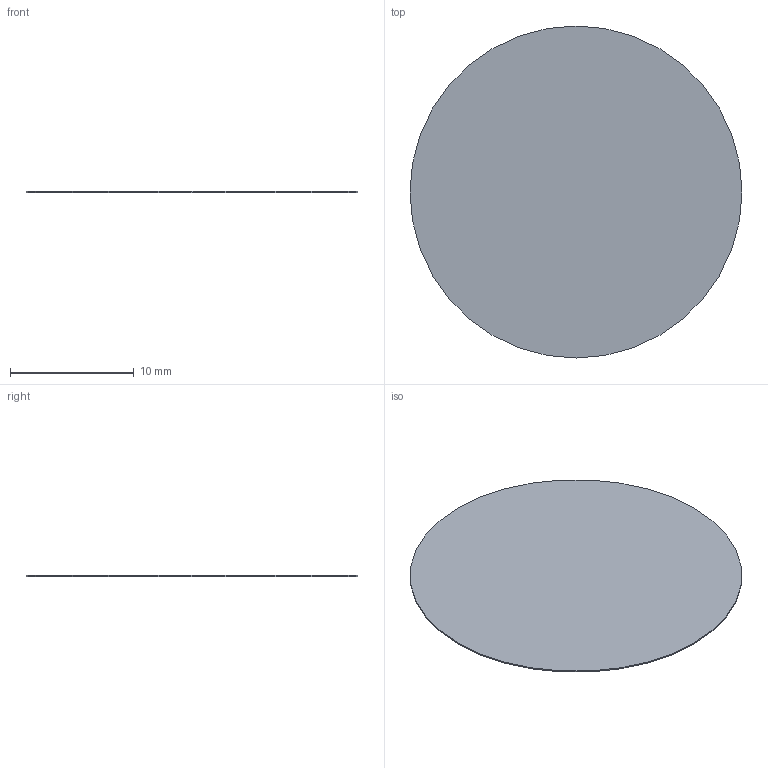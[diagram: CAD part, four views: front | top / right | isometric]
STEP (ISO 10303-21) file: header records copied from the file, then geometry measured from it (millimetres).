
FILE_DESCRIPTION(/* description */ (''),/* implementation_level */ '2;1');
FILE_NAME(/* name */ 'C28_R1_11_Round_Play_Bond_Film.step',/* time_stamp */ '2026-09-10T17:48:31-07:00',/* author */ (''),/* organization */ (''),/* preprocessor_version */ 'ST-DEVELOPER v20.1',/* originating_system */ 'Autodesk Translation Framework v15.8.0.0',/* authorisation */ '');
FILE_SCHEMA (('AUTOMOTIVE_DESIGN { 1 0 10303 214 3 1 1 }'));
Length unit declared in the file: millimetre
Products named in the file (1): 2026-09-10-17-48-31-606
Bounding box: 26.8 x 26.8 x 0.1 mm (x, y, z)
Volume: 56.4 mm3; surface area: 1136.6 mm2
Topology: 1 solids, 1 shells, 3 faces, 3 edges, 2 vertices
Faces by surface type: plane 2, cylinder 1
Full cylindrical faces by diameter (mm): 26.8 x1
Entity records: 92 total; most frequent: DIRECTION 13, CARTESIAN_POINT 9, ORIENTED_EDGE 6, AXIS2_PLACEMENT_3D 6, FACE_OUTER_BOUND 3, EDGE_LOOP 3, EDGE_CURVE 3, ADVANCED_FACE 3
